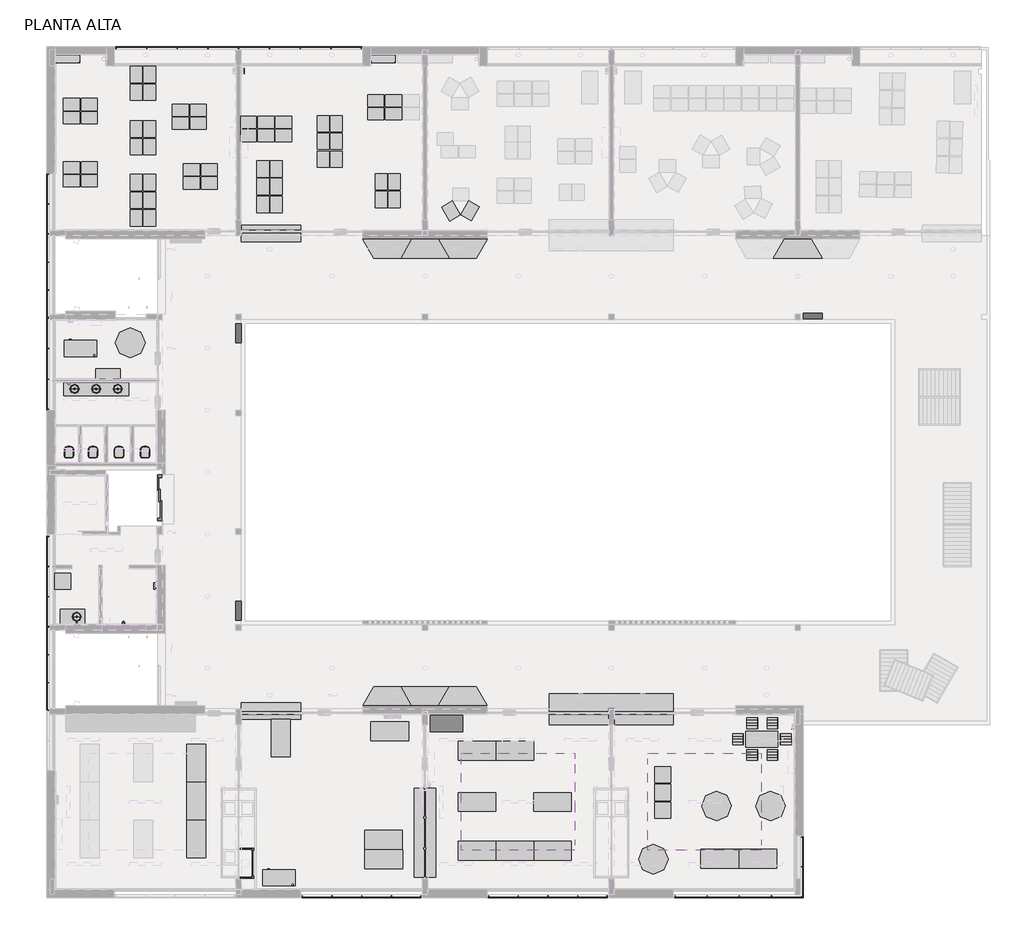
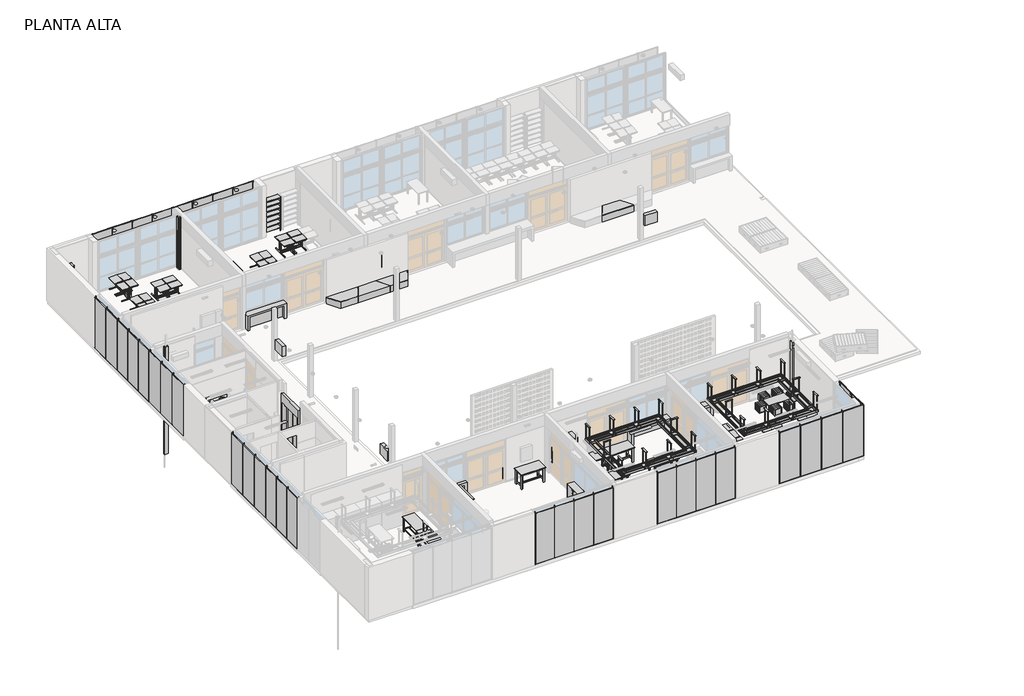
# One storey, part 10 of 14: 135 furniture elements, 11 flow terminals.
"""IFC4 building model written with IfcOpenShell, lengths in millimetres."""

from ifc_helpers import new_model, si_unit, origin, place, context, project, spatial, transform, mapped, element, save
from components import flow_terminal_9181aeda, flow_terminal_6fa54989, flow_terminal_a7845b32, furniture_e56d43f1, furniture_ab439d99, furniture_b328b4e4, furniture_2009737b, furniture_8aaaafb9, furniture_e09c71f7, furniture_937832ed, furniture_bfd22e1b, furniture_bc23b5bf, furniture_f0ac5a82, furniture_249bf919, furniture_e9eda647, furniture_beb05811, furniture_b563ccbc, furniture_e801d33e, furniture_be81a5af, furniture_d5f9400a, furniture_ed805c17, furniture_2b1f3197, furniture_4f233490, furniture_93ab70db, furniture_eb17cc9a, furniture_b6be04e7, furniture_3c228907, furniture_466d98a2, furniture_776c19b2, furniture_6e125edc, furniture_b436540a, furniture_6d9eaf94, furniture_388dc08d, furniture_bd1b491a, furniture_f4723014, furniture_2_12_escritorio_2_12_escritorio_cd86329a, furniture_2_16_mesa_redonda_2_16_mesa_redonda_79845c6b, furniture_2_7_mesa_baja_2_7_mesa_baja_48d4bc2e, generico_20x20_1fd937c5, puerta_ascensor_pet_puerta_ascensor_pet_5d3d87b6

model = new_model("IFC4")

# Units and contexts
model_context = context("Model", 3, world=origin())
ifc_project = project(units=[si_unit("LENGTHUNIT", "METRE", prefix="MILLI")], contexts=[model_context])

# Site, building, storey
site = spatial("IfcSite", under=ifc_project)
building = spatial("IfcBuilding", under=site)
storey = spatial("IfcBuildingStorey", under=building, Name="PLANTA ALTA", Elevation=3310.0)

# Flow terminals
placement = place(None, origin())
flow_terminal_shape = flow_terminal_9181aeda(model_context)
element("IfcFlowTerminal", 1, ObjectType="Inodoro-Ferrum-Tapa_y_Asiento-TKMP_TKM_TKXM_TKXMC : Tapa de Inodoro", at=placement, inside=storey, context=model_context, shape_type="MappedRepresentation", body=[
    mapped(flow_terminal_shape, transform((3906.2173694, 16255.3243696, 3645.0), x_axis=(-1.0, 0.0, 0.0), y_axis=(0.0, -1.0, 0.0), z_axis=(0.0, 0.0, 1.0))),
])
element("IfcFlowTerminal", 2, ObjectType="Inodoro-Ferrum-Tapa_y_Asiento-TKMP_TKM_TKXM_TKXMC : Tapa de Inodoro", at=placement, inside=storey, context=model_context, shape_type="MappedRepresentation", body=[
    mapped(flow_terminal_shape, transform((4796.2173694, 16255.3243696, 3645.0), x_axis=(-1.0, 0.0, 0.0), y_axis=(0.0, -1.0, 0.0), z_axis=(0.0, 0.0, 1.0))),
])
element("IfcFlowTerminal", 3, ObjectType="Inodoro-Ferrum-Tapa_y_Asiento-TKMP_TKM_TKXM_TKXMC : Tapa de Inodoro", at=placement, inside=storey, context=model_context, shape_type="MappedRepresentation", body=[
    mapped(flow_terminal_shape, transform((5761.2173694, 16255.3243696, 3645.0), x_axis=(-1.0, 0.0, 0.0), y_axis=(0.0, -1.0, 0.0), z_axis=(0.0, 0.0, 1.0))),
])
element("IfcFlowTerminal", 4, ObjectType="Inodoro-Ferrum-Tapa_y_Asiento-TKMP_TKM_TKXM_TKXMC : Tapa de Inodoro", at=placement, inside=storey, context=model_context, shape_type="MappedRepresentation", body=[
    mapped(flow_terminal_shape, transform((6726.2173694, 16255.3243696, 3645.0), x_axis=(-1.0, 0.0, 0.0), y_axis=(0.0, -1.0, 0.0), z_axis=(0.0, 0.0, 1.0))),
])
flow_terminal_2_shape = flow_terminal_6fa54989(model_context)
element("IfcFlowTerminal", 5, ObjectType="APSA-I-AI-Bacha Circular Sobreponer-PET : APSA-I-AI-Bacha Circular Sobreponer-30cm-PET", at=placement, inside=storey, context=model_context, shape_type="MappedRepresentation", body=[
    mapped(flow_terminal_2_shape, transform((4113.7173694, 19056.4804035, 4160.0), x_axis=(1.0, 0.0, 0.0), y_axis=(0.0, 1.0, 0.0), z_axis=(0.0, 0.0, 1.0))),
])
element("IfcFlowTerminal", 6, ObjectType="APSA-I-AI-Bacha Circular Sobreponer-PET : APSA-I-AI-Bacha Circular Sobreponer-30cm-PET", at=placement, inside=storey, context=model_context, shape_type="MappedRepresentation", body=[
    mapped(flow_terminal_2_shape, transform((4913.7173694, 19056.4804035, 4160.0), x_axis=(1.0, 0.0, 0.0), y_axis=(0.0, 1.0, 0.0), z_axis=(0.0, 0.0, 1.0))),
])
element("IfcFlowTerminal", 7, ObjectType="APSA-I-AI-Bacha Circular Sobreponer-PET : APSA-I-AI-Bacha Circular Sobreponer-30cm-PET", at=placement, inside=storey, context=model_context, shape_type="MappedRepresentation", body=[
    mapped(flow_terminal_2_shape, transform((5713.7173694, 19056.4804035, 4160.0), x_axis=(1.0, 0.0, 0.0), y_axis=(0.0, 1.0, 0.0), z_axis=(0.0, 0.0, 1.0))),
])
element("IfcFlowTerminal", 8, ObjectType="APSA-I-AI-Bacha Circular Sobreponer-PET : APSA-I-AI-Bacha Circular Sobreponer-30cm-PET", at=placement, inside=storey, context=model_context, shape_type="MappedRepresentation", body=[
    mapped(flow_terminal_2_shape, transform((4192.1232507, 10620.2304035, 4210.0), x_axis=(1.0, 0.0, 0.0), y_axis=(0.0, 1.0, 0.0), z_axis=(0.0, 0.0, 1.0))),
])
flow_terminal_3_shape = flow_terminal_a7845b32(model_context)
element("IfcFlowTerminal", 9, ObjectType="APSA-I-HI-Boca de incendio-PET : APSA_I_HI_Boca de incendio-PET", at=placement, inside=storey, context=model_context, shape_type="MappedRepresentation", body=[
    mapped(flow_terminal_3_shape, transform((10189.8645248, 10841.2910503, 4110.0), x_axis=(1.0, 0.0, 0.0), y_axis=(0.0, 1.0, 0.0), z_axis=(0.0, 0.0, 1.0))),
])
element("IfcFlowTerminal", 10, ObjectType="APSA-I-HI-Boca de incendio-PET : APSA_I_HI_Boca de incendio-PET", at=placement, inside=storey, context=model_context, shape_type="MappedRepresentation", body=[
    mapped(flow_terminal_3_shape, transform((10187.5297896, 21122.1749676, 4110.0), x_axis=(1.0, 0.0, 0.0), y_axis=(0.0, 1.0, 0.0), z_axis=(0.0, 0.0, 1.0))),
])
element("IfcFlowTerminal", 11, ObjectType="APSA-I-HI-Boca de incendio-PET : APSA_I_HI_Boca de incendio-PET", at=placement, inside=storey, context=model_context, shape_type="MappedRepresentation", body=[
    mapped(flow_terminal_3_shape, transform((31447.782547, 21751.1143897, 4054.7555496), x_axis=(0.0, 1.0, 0.0), y_axis=(-1.0, 0.0, 0.0), z_axis=(0.0, 0.0, 1.0))),
])

# Furniture
furniture_shape = furniture_e56d43f1(model_context)
element("IfcFurniture", 12, ObjectType="2.5 Mesa cuadrada 60x60 : 2.5 Mesa cuadrada 60x60", at=placement, inside=storey, context=model_context, shape_type="MappedRepresentation", body=[
    mapped(furniture_shape, transform((25887.82471, 4111.0132244, 3310.0), x_axis=(1.0, 0.0, 0.0), y_axis=(0.0, 1.0, 0.0), z_axis=(0.0, 0.0, 1.0))),
])
element("IfcFurniture", 13, ObjectType="2.5 Mesa cuadrada 60x60 : 2.5 Mesa cuadrada 60x60", at=placement, inside=storey, context=model_context, shape_type="MappedRepresentation", body=[
    mapped(furniture_shape, transform((25887.82471, 3455.1530743, 3310.0), x_axis=(1.0, 0.0, 0.0), y_axis=(0.0, 1.0, 0.0), z_axis=(0.0, 0.0, 1.0))),
])
element("IfcFurniture", 14, ObjectType="2.5 Mesa cuadrada 60x60 : 2.5 Mesa cuadrada 60x60", at=placement, inside=storey, context=model_context, shape_type="MappedRepresentation", body=[
    mapped(furniture_shape, transform((3678.7173694, 11936.8970702, 3310.0), x_axis=(1.0, 0.0, 0.0), y_axis=(0.0, 1.0, 0.0), z_axis=(0.0, 0.0, 1.0))),
])
element("IfcFurniture", 15, ObjectType="2.5 Mesa cuadrada 60x60 : 2.5 Mesa cuadrada 60x60", at=placement, inside=storey, context=model_context, shape_type="MappedRepresentation", body=[
    mapped(furniture_shape, transform((25887.82471, 4766.8733744, 3310.0), x_axis=(1.0, 0.0, 0.0), y_axis=(0.0, 1.0, 0.0), z_axis=(0.0, 0.0, 1.0))),
])
furniture_2_shape = furniture_ab439d99(model_context)
element("IfcFurniture", 16, ObjectType="4.5 Estantería baja : 4.5 Estantería baja", at=placement, inside=storey, context=model_context, shape_type="MappedRepresentation", body=[
    mapped(furniture_2_shape, transform((5348.7173694, 19605.2304035, 3310.0), x_axis=(-1.0, 0.0, 0.0), y_axis=(0.0, -1.0, 0.0), z_axis=(0.0, 0.0, 1.0))),
])
furniture_3_shape = furniture_b328b4e4(model_context)
element("IfcFurniture", 17, ObjectType="2.1 Mesa alumno : 2.1 Mesa alumno", at=placement, inside=storey, context=model_context, shape_type="MappedRepresentation", body=[
    mapped(furniture_3_shape, transform((8041.3582, 29377.0164676, 3310.0), x_axis=(1.0, 0.0, 0.0), y_axis=(0.0, 1.0, 0.0), z_axis=(0.0, 0.0, 1.0))),
])
element("IfcFurniture", 18, ObjectType="2.1 Mesa alumno : 2.1 Mesa alumno", at=placement, inside=storey, context=model_context, shape_type="MappedRepresentation", body=[
    mapped(furniture_3_shape, transform((8695.3024556, 29377.0164676, 3310.0), x_axis=(1.0, 0.0, 0.0), y_axis=(0.0, 1.0, 0.0), z_axis=(0.0, 0.0, 1.0))),
])
element("IfcFurniture", 19, ObjectType="2.1 Mesa alumno : 2.1 Mesa alumno", at=placement, inside=storey, context=model_context, shape_type="MappedRepresentation", body=[
    mapped(furniture_3_shape, transform((8695.301502, 28892.202398, 3310.0), x_axis=(-0.9999999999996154, 8.770485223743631e-07, 0.0), y_axis=(-8.770485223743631e-07, -0.9999999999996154, 0.0), z_axis=(0.0, 0.0, 1.0))),
])
element("IfcFurniture", 20, ObjectType="2.1 Mesa alumno : 2.1 Mesa alumno", at=placement, inside=storey, context=model_context, shape_type="MappedRepresentation", body=[
    mapped(furniture_3_shape, transform((8041.3572463, 28892.202398, 3310.0), x_axis=(-1.0, 0.0, 0.0), y_axis=(0.0, -1.0, 0.0), z_axis=(0.0, 0.0, 1.0))),
])
element("IfcFurniture", 21, ObjectType="2.1 Mesa alumno : 2.1 Mesa alumno", at=placement, inside=storey, context=model_context, shape_type="MappedRepresentation", body=[
    mapped(furniture_3_shape, transform((8444.5405945, 27163.0969981, 3310.0), x_axis=(1.0, 0.0, 0.0), y_axis=(0.0, 1.0, 0.0), z_axis=(0.0, 0.0, 1.0))),
])
element("IfcFurniture", 22, ObjectType="2.1 Mesa alumno : 2.1 Mesa alumno", at=placement, inside=storey, context=model_context, shape_type="MappedRepresentation", body=[
    mapped(furniture_3_shape, transform((9098.4848501, 27163.0969981, 3310.0), x_axis=(1.0, 0.0, 0.0), y_axis=(0.0, 1.0, 0.0), z_axis=(0.0, 0.0, 1.0))),
])
element("IfcFurniture", 23, ObjectType="2.1 Mesa alumno : 2.1 Mesa alumno", at=placement, inside=storey, context=model_context, shape_type="MappedRepresentation", body=[
    mapped(furniture_3_shape, transform((9098.4838965, 26678.2829284, 3310.0), x_axis=(-0.9999999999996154, 8.770485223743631e-07, 0.0), y_axis=(-8.770485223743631e-07, -0.9999999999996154, 0.0), z_axis=(0.0, 0.0, 1.0))),
])
element("IfcFurniture", 24, ObjectType="2.1 Mesa alumno : 2.1 Mesa alumno", at=placement, inside=storey, context=model_context, shape_type="MappedRepresentation", body=[
    mapped(furniture_3_shape, transform((8444.5396408, 26678.2829284, 3310.0), x_axis=(-1.0, 0.0, 0.0), y_axis=(0.0, -1.0, 0.0), z_axis=(0.0, 0.0, 1.0))),
])
element("IfcFurniture", 25, ObjectType="2.1 Mesa alumno : 2.1 Mesa alumno", at=placement, inside=storey, context=model_context, shape_type="MappedRepresentation", body=[
    mapped(furniture_3_shape, transform((4004.5405945, 29583.0969981, 3310.0), x_axis=(1.0, 0.0, 0.0), y_axis=(0.0, 1.0, 0.0), z_axis=(0.0, 0.0, 1.0))),
])
element("IfcFurniture", 26, ObjectType="2.1 Mesa alumno : 2.1 Mesa alumno", at=placement, inside=storey, context=model_context, shape_type="MappedRepresentation", body=[
    mapped(furniture_3_shape, transform((4658.4848501, 29583.0969981, 3310.0), x_axis=(1.0, 0.0, 0.0), y_axis=(0.0, 1.0, 0.0), z_axis=(0.0, 0.0, 1.0))),
])
element("IfcFurniture", 27, ObjectType="2.1 Mesa alumno : 2.1 Mesa alumno", at=placement, inside=storey, context=model_context, shape_type="MappedRepresentation", body=[
    mapped(furniture_3_shape, transform((4658.4838965, 29098.2829284, 3310.0), x_axis=(-0.9999999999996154, 8.770485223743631e-07, 0.0), y_axis=(-8.770485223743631e-07, -0.9999999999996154, 0.0), z_axis=(0.0, 0.0, 1.0))),
])
element("IfcFurniture", 28, ObjectType="2.1 Mesa alumno : 2.1 Mesa alumno", at=placement, inside=storey, context=model_context, shape_type="MappedRepresentation", body=[
    mapped(furniture_3_shape, transform((4004.5396408, 29098.2829284, 3310.0), x_axis=(-1.0, 0.0, 0.0), y_axis=(0.0, -1.0, 0.0), z_axis=(0.0, 0.0, 1.0))),
])
element("IfcFurniture", 29, ObjectType="2.1 Mesa alumno : 2.1 Mesa alumno", at=placement, inside=storey, context=model_context, shape_type="MappedRepresentation", body=[
    mapped(furniture_3_shape, transform((4004.5405945, 27243.0969981, 3310.0), x_axis=(1.0, 0.0, 0.0), y_axis=(0.0, 1.0, 0.0), z_axis=(0.0, 0.0, 1.0))),
])
element("IfcFurniture", 30, ObjectType="2.1 Mesa alumno : 2.1 Mesa alumno", at=placement, inside=storey, context=model_context, shape_type="MappedRepresentation", body=[
    mapped(furniture_3_shape, transform((4658.4848501, 27243.0969981, 3310.0), x_axis=(1.0, 0.0, 0.0), y_axis=(0.0, 1.0, 0.0), z_axis=(0.0, 0.0, 1.0))),
])
element("IfcFurniture", 31, ObjectType="2.1 Mesa alumno : 2.1 Mesa alumno", at=placement, inside=storey, context=model_context, shape_type="MappedRepresentation", body=[
    mapped(furniture_3_shape, transform((4658.4838965, 26758.2829284, 3310.0), x_axis=(-0.9999999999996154, 8.770485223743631e-07, 0.0), y_axis=(-8.770485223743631e-07, -0.9999999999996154, 0.0), z_axis=(0.0, 0.0, 1.0))),
])
element("IfcFurniture", 32, ObjectType="2.1 Mesa alumno : 2.1 Mesa alumno", at=placement, inside=storey, context=model_context, shape_type="MappedRepresentation", body=[
    mapped(furniture_3_shape, transform((4004.5396408, 26758.2829284, 3310.0), x_axis=(-1.0, 0.0, 0.0), y_axis=(0.0, -1.0, 0.0), z_axis=(0.0, 0.0, 1.0))),
])
element("IfcFurniture", 33, ObjectType="2.1 Mesa alumno : 2.1 Mesa alumno", at=placement, inside=storey, context=model_context, shape_type="MappedRepresentation", body=[
    mapped(furniture_3_shape, transform((6405.5382097, 30041.849804, 3310.0), x_axis=(0.0, 1.0, 0.0), y_axis=(-1.0, 0.0, 0.0), z_axis=(0.0, 0.0, 1.0))),
])
element("IfcFurniture", 34, ObjectType="2.1 Mesa alumno : 2.1 Mesa alumno", at=placement, inside=storey, context=model_context, shape_type="MappedRepresentation", body=[
    mapped(furniture_3_shape, transform((6405.5382097, 30695.7940596, 3310.0), x_axis=(0.0, 1.0, 0.0), y_axis=(-1.0, 0.0, 0.0), z_axis=(0.0, 0.0, 1.0))),
])
element("IfcFurniture", 35, ObjectType="2.1 Mesa alumno : 2.1 Mesa alumno", at=placement, inside=storey, context=model_context, shape_type="MappedRepresentation", body=[
    mapped(furniture_3_shape, transform((6890.3522794, 30695.793106, 3310.0), x_axis=(-8.770485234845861e-07, -0.9999999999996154, 0.0), y_axis=(0.9999999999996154, -8.770485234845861e-07, 0.0), z_axis=(0.0, 0.0, 1.0))),
])
element("IfcFurniture", 36, ObjectType="2.1 Mesa alumno : 2.1 Mesa alumno", at=placement, inside=storey, context=model_context, shape_type="MappedRepresentation", body=[
    mapped(furniture_3_shape, transform((6890.3522794, 30041.8488503, 3310.0), x_axis=(0.0, -1.0, 0.0), y_axis=(1.0, 0.0, 0.0), z_axis=(0.0, 0.0, 1.0))),
])
element("IfcFurniture", 37, ObjectType="2.1 Mesa alumno : 2.1 Mesa alumno", at=placement, inside=storey, context=model_context, shape_type="MappedRepresentation", body=[
    mapped(furniture_3_shape, transform((6405.5382097, 28021.849804, 3310.0), x_axis=(0.0, 1.0, 0.0), y_axis=(-1.0, 0.0, 0.0), z_axis=(0.0, 0.0, 1.0))),
])
element("IfcFurniture", 38, ObjectType="2.1 Mesa alumno : 2.1 Mesa alumno", at=placement, inside=storey, context=model_context, shape_type="MappedRepresentation", body=[
    mapped(furniture_3_shape, transform((6405.5382097, 28675.7940596, 3310.0), x_axis=(0.0, 1.0, 0.0), y_axis=(-1.0, 0.0, 0.0), z_axis=(0.0, 0.0, 1.0))),
])
element("IfcFurniture", 39, ObjectType="2.1 Mesa alumno : 2.1 Mesa alumno", at=placement, inside=storey, context=model_context, shape_type="MappedRepresentation", body=[
    mapped(furniture_3_shape, transform((6890.3522794, 28675.793106, 3310.0), x_axis=(-8.770485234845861e-07, -0.9999999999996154, 0.0), y_axis=(0.9999999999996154, -8.770485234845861e-07, 0.0), z_axis=(0.0, 0.0, 1.0))),
])
element("IfcFurniture", 40, ObjectType="2.1 Mesa alumno : 2.1 Mesa alumno", at=placement, inside=storey, context=model_context, shape_type="MappedRepresentation", body=[
    mapped(furniture_3_shape, transform((6890.3522794, 28021.8488503, 3310.0), x_axis=(0.0, -1.0, 0.0), y_axis=(1.0, 0.0, 0.0), z_axis=(0.0, 0.0, 1.0))),
])
element("IfcFurniture", 41, ObjectType="2.1 Mesa alumno : 2.1 Mesa alumno", at=placement, inside=storey, context=model_context, shape_type="MappedRepresentation", body=[
    mapped(furniture_3_shape, transform((6405.5382097, 26041.849804, 3310.0), x_axis=(0.0, 1.0, 0.0), y_axis=(-1.0, 0.0, 0.0), z_axis=(0.0, 0.0, 1.0))),
])
element("IfcFurniture", 42, ObjectType="2.1 Mesa alumno : 2.1 Mesa alumno", at=placement, inside=storey, context=model_context, shape_type="MappedRepresentation", body=[
    mapped(furniture_3_shape, transform((6405.5382097, 26695.7940596, 3310.0), x_axis=(0.0, 1.0, 0.0), y_axis=(-1.0, 0.0, 0.0), z_axis=(0.0, 0.0, 1.0))),
])
element("IfcFurniture", 43, ObjectType="2.1 Mesa alumno : 2.1 Mesa alumno", at=placement, inside=storey, context=model_context, shape_type="MappedRepresentation", body=[
    mapped(furniture_3_shape, transform((6890.3522794, 26695.793106, 3310.0), x_axis=(-8.770485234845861e-07, -0.9999999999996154, 0.0), y_axis=(0.9999999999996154, -8.770485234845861e-07, 0.0), z_axis=(0.0, 0.0, 1.0))),
])
element("IfcFurniture", 44, ObjectType="2.1 Mesa alumno : 2.1 Mesa alumno", at=placement, inside=storey, context=model_context, shape_type="MappedRepresentation", body=[
    mapped(furniture_3_shape, transform((6890.3522794, 26041.8488503, 3310.0), x_axis=(0.0, -1.0, 0.0), y_axis=(1.0, 0.0, 0.0), z_axis=(0.0, 0.0, 1.0))),
])
element("IfcFurniture", 45, ObjectType="2.1 Mesa alumno : 2.1 Mesa alumno", at=placement, inside=storey, context=model_context, shape_type="MappedRepresentation", body=[
    mapped(furniture_3_shape, transform((6405.5382097, 25381.849804, 3310.0), x_axis=(0.0, 1.0, 0.0), y_axis=(-1.0, 0.0, 0.0), z_axis=(0.0, 0.0, 1.0))),
])
element("IfcFurniture", 46, ObjectType="2.1 Mesa alumno : 2.1 Mesa alumno", at=placement, inside=storey, context=model_context, shape_type="MappedRepresentation", body=[
    mapped(furniture_3_shape, transform((6890.3522794, 25381.8488503, 3310.0), x_axis=(0.0, -1.0, 0.0), y_axis=(1.0, 0.0, 0.0), z_axis=(0.0, 0.0, 1.0))),
])
element("IfcFurniture", 47, ObjectType="2.1 Mesa alumno : 2.1 Mesa alumno", at=placement, inside=storey, context=model_context, shape_type="MappedRepresentation", body=[
    mapped(furniture_3_shape, transform((15924.5405945, 29723.0969981, 3310.0), x_axis=(1.0, 0.0, 0.0), y_axis=(0.0, 1.0, 0.0), z_axis=(0.0, 0.0, 1.0))),
])
element("IfcFurniture", 48, ObjectType="2.1 Mesa alumno : 2.1 Mesa alumno", at=placement, inside=storey, context=model_context, shape_type="MappedRepresentation", body=[
    mapped(furniture_3_shape, transform((15924.5396408, 29238.2829284, 3310.0), x_axis=(-1.0, 0.0, 0.0), y_axis=(0.0, -1.0, 0.0), z_axis=(0.0, 0.0, 1.0))),
])
element("IfcFurniture", 49, ObjectType="2.1 Mesa alumno : 2.1 Mesa alumno", at=placement, inside=storey, context=model_context, shape_type="MappedRepresentation", body=[
    mapped(furniture_3_shape, transform((15270.5963389, 29723.0969981, 3310.0), x_axis=(1.0, 0.0, 0.0), y_axis=(0.0, 1.0, 0.0), z_axis=(0.0, 0.0, 1.0))),
])
element("IfcFurniture", 50, ObjectType="2.1 Mesa alumno : 2.1 Mesa alumno", at=placement, inside=storey, context=model_context, shape_type="MappedRepresentation", body=[
    mapped(furniture_3_shape, transform((15270.5953852, 29238.2829284, 3310.0), x_axis=(-1.0, 0.0, 0.0), y_axis=(0.0, -1.0, 0.0), z_axis=(0.0, 0.0, 1.0))),
])
element("IfcFurniture", 51, ObjectType="2.1 Mesa alumno : 2.1 Mesa alumno", at=placement, inside=storey, context=model_context, shape_type="MappedRepresentation", body=[
    mapped(furniture_3_shape, transform((15471.2904926, 26066.2514887, 3310.0), x_axis=(0.0, 1.0, 0.0), y_axis=(-1.0, 0.0, 0.0), z_axis=(0.0, 0.0, 1.0))),
])
element("IfcFurniture", 52, ObjectType="2.1 Mesa alumno : 2.1 Mesa alumno", at=placement, inside=storey, context=model_context, shape_type="MappedRepresentation", body=[
    mapped(furniture_3_shape, transform((15471.2904926, 26720.1957444, 3310.0), x_axis=(0.0, 1.0, 0.0), y_axis=(-1.0, 0.0, 0.0), z_axis=(0.0, 0.0, 1.0))),
])
element("IfcFurniture", 53, ObjectType="2.1 Mesa alumno : 2.1 Mesa alumno", at=placement, inside=storey, context=model_context, shape_type="MappedRepresentation", body=[
    mapped(furniture_3_shape, transform((15956.1045622, 26720.1947907, 3310.0), x_axis=(-8.770485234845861e-07, -0.9999999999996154, 0.0), y_axis=(0.9999999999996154, -8.770485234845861e-07, 0.0), z_axis=(0.0, 0.0, 1.0))),
])
element("IfcFurniture", 54, ObjectType="2.1 Mesa alumno : 2.1 Mesa alumno", at=placement, inside=storey, context=model_context, shape_type="MappedRepresentation", body=[
    mapped(furniture_3_shape, transform((15956.1045622, 26066.2505351, 3310.0), x_axis=(0.0, -1.0, 0.0), y_axis=(1.0, 0.0, 0.0), z_axis=(0.0, 0.0, 1.0))),
])
element("IfcFurniture", 55, ObjectType="2.1 Mesa alumno : 2.1 Mesa alumno", at=placement, inside=storey, context=model_context, shape_type="MappedRepresentation", body=[
    mapped(furniture_3_shape, transform((11091.2904926, 26546.2514887, 3310.0), x_axis=(0.0, 1.0, 0.0), y_axis=(-1.0, 0.0, 0.0), z_axis=(0.0, 0.0, 1.0))),
])
element("IfcFurniture", 56, ObjectType="2.1 Mesa alumno : 2.1 Mesa alumno", at=placement, inside=storey, context=model_context, shape_type="MappedRepresentation", body=[
    mapped(furniture_3_shape, transform((11091.2904926, 27200.1957444, 3310.0), x_axis=(0.0, 1.0, 0.0), y_axis=(-1.0, 0.0, 0.0), z_axis=(0.0, 0.0, 1.0))),
])
element("IfcFurniture", 57, ObjectType="2.1 Mesa alumno : 2.1 Mesa alumno", at=placement, inside=storey, context=model_context, shape_type="MappedRepresentation", body=[
    mapped(furniture_3_shape, transform((11576.1045622, 27200.1947907, 3310.0), x_axis=(-8.770485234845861e-07, -0.9999999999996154, 0.0), y_axis=(0.9999999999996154, -8.770485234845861e-07, 0.0), z_axis=(0.0, 0.0, 1.0))),
])
element("IfcFurniture", 58, ObjectType="2.1 Mesa alumno : 2.1 Mesa alumno", at=placement, inside=storey, context=model_context, shape_type="MappedRepresentation", body=[
    mapped(furniture_3_shape, transform((11576.1045622, 26546.2505351, 3310.0), x_axis=(0.0, -1.0, 0.0), y_axis=(1.0, 0.0, 0.0), z_axis=(0.0, 0.0, 1.0))),
])
element("IfcFurniture", 59, ObjectType="2.1 Mesa alumno : 2.1 Mesa alumno", at=placement, inside=storey, context=model_context, shape_type="MappedRepresentation", body=[
    mapped(furniture_3_shape, transform((11091.2904926, 25886.2514887, 3310.0), x_axis=(0.0, 1.0, 0.0), y_axis=(-1.0, 0.0, 0.0), z_axis=(0.0, 0.0, 1.0))),
])
element("IfcFurniture", 60, ObjectType="2.1 Mesa alumno : 2.1 Mesa alumno", at=placement, inside=storey, context=model_context, shape_type="MappedRepresentation", body=[
    mapped(furniture_3_shape, transform((11576.1045622, 25886.2505351, 3310.0), x_axis=(0.0, -1.0, 0.0), y_axis=(1.0, 0.0, 0.0), z_axis=(0.0, 0.0, 1.0))),
])
element("IfcFurniture", 61, ObjectType="2.1 Mesa alumno : 2.1 Mesa alumno", at=placement, inside=storey, context=model_context, shape_type="MappedRepresentation", body=[
    mapped(furniture_3_shape, transform((13317.280069, 28221.7486719, 3310.0), x_axis=(0.0, 1.0, 0.0), y_axis=(-1.0, 0.0, 0.0), z_axis=(0.0, 0.0, 1.0))),
])
element("IfcFurniture", 62, ObjectType="2.1 Mesa alumno : 2.1 Mesa alumno", at=placement, inside=storey, context=model_context, shape_type="MappedRepresentation", body=[
    mapped(furniture_3_shape, transform((13317.280069, 28875.6929275, 3310.0), x_axis=(0.0, 1.0, 0.0), y_axis=(-1.0, 0.0, 0.0), z_axis=(0.0, 0.0, 1.0))),
])
element("IfcFurniture", 63, ObjectType="2.1 Mesa alumno : 2.1 Mesa alumno", at=placement, inside=storey, context=model_context, shape_type="MappedRepresentation", body=[
    mapped(furniture_3_shape, transform((13802.0941386, 28875.6919739, 3310.0), x_axis=(-8.770485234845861e-07, -0.9999999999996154, 0.0), y_axis=(0.9999999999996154, -8.770485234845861e-07, 0.0), z_axis=(0.0, 0.0, 1.0))),
])
element("IfcFurniture", 64, ObjectType="2.1 Mesa alumno : 2.1 Mesa alumno", at=placement, inside=storey, context=model_context, shape_type="MappedRepresentation", body=[
    mapped(furniture_3_shape, transform((13802.0941386, 28221.7477182, 3310.0), x_axis=(0.0, -1.0, 0.0), y_axis=(1.0, 0.0, 0.0), z_axis=(0.0, 0.0, 1.0))),
])
element("IfcFurniture", 65, ObjectType="2.1 Mesa alumno : 2.1 Mesa alumno", at=placement, inside=storey, context=model_context, shape_type="MappedRepresentation", body=[
    mapped(furniture_3_shape, transform((13317.280069, 27561.7486719, 3310.0), x_axis=(0.0, 1.0, 0.0), y_axis=(-1.0, 0.0, 0.0), z_axis=(0.0, 0.0, 1.0))),
])
element("IfcFurniture", 66, ObjectType="2.1 Mesa alumno : 2.1 Mesa alumno", at=placement, inside=storey, context=model_context, shape_type="MappedRepresentation", body=[
    mapped(furniture_3_shape, transform((13802.0941386, 27561.7477182, 3310.0), x_axis=(0.0, -1.0, 0.0), y_axis=(1.0, 0.0, 0.0), z_axis=(0.0, 0.0, 1.0))),
])
element("IfcFurniture", 67, ObjectType="2.1 Mesa alumno : 2.1 Mesa alumno", at=placement, inside=storey, context=model_context, shape_type="MappedRepresentation", body=[
    mapped(furniture_3_shape, transform((18756.0271973, 25645.6309393, 3310.0), x_axis=(-0.5000000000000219, -0.8660254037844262, 0.0), y_axis=(0.8660254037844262, -0.5000000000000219, 0.0), z_axis=(0.0, 0.0, 1.0))),
])
element("IfcFurniture", 68, ObjectType="2.1 Mesa alumno : 2.1 Mesa alumno", at=placement, inside=storey, context=model_context, shape_type="MappedRepresentation", body=[
    mapped(furniture_3_shape, transform((18055.4554608, 25642.821668, 3310.0), x_axis=(-0.49999924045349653, 0.8660258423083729, 0.0), y_axis=(-0.8660258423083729, -0.49999924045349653, 0.0), z_axis=(0.0, 0.0, 1.0))),
])
furniture_4_shape = furniture_2009737b(model_context)
element("IfcFurniture", 69, ObjectType="1.7 Taburete bajo : 1.7 Taburete bajo", at=placement, inside=storey, context=model_context, shape_type="MappedRepresentation", body=[
    mapped(furniture_4_shape, transform((29953.7817502, 5501.9534316, 3310.0), x_axis=(-1.0, 0.0, 0.0), y_axis=(0.0, -1.0, 0.0), z_axis=(0.0, 0.0, 1.0))),
])
element("IfcFurniture", 70, ObjectType="1.7 Taburete bajo : 1.7 Taburete bajo", at=placement, inside=storey, context=model_context, shape_type="MappedRepresentation", body=[
    mapped(furniture_4_shape, transform((29207.2773575, 5501.9534316, 3310.0), x_axis=(-1.0, 0.0, 0.0), y_axis=(0.0, -1.0, 0.0), z_axis=(0.0, 0.0, 1.0))),
])
element("IfcFurniture", 71, ObjectType="1.7 Taburete bajo : 1.7 Taburete bajo", at=placement, inside=storey, context=model_context, shape_type="MappedRepresentation", body=[
    mapped(furniture_4_shape, transform((29953.7817502, 6683.5364272, 3310.0), x_axis=(-1.0, 0.0, 0.0), y_axis=(0.0, -1.0, 0.0), z_axis=(0.0, 0.0, 1.0))),
])
element("IfcFurniture", 72, ObjectType="1.7 Taburete bajo : 1.7 Taburete bajo", at=placement, inside=storey, context=model_context, shape_type="MappedRepresentation", body=[
    mapped(furniture_4_shape, transform((29207.2773575, 6683.5364272, 3310.0), x_axis=(-1.0, 0.0, 0.0), y_axis=(0.0, -1.0, 0.0), z_axis=(0.0, 0.0, 1.0))),
])
element("IfcFurniture", 73, ObjectType="1.7 Taburete bajo : 1.7 Taburete bajo", at=placement, inside=storey, context=model_context, shape_type="MappedRepresentation", body=[
    mapped(furniture_4_shape, transform((28673.7817025, 6083.5364033, 3310.0), x_axis=(-1.0, 0.0, 0.0), y_axis=(0.0, -1.0, 0.0), z_axis=(0.0, 0.0, 1.0))),
])
furniture_5_shape = furniture_8aaaafb9(model_context)
element("IfcFurniture", 74, ObjectType="2.2 Mesa de madera de física : 2.2 Mesa de madera de física", at=placement, inside=storey, context=model_context, shape_type="MappedRepresentation", body=[
    mapped(furniture_5_shape, transform((19014.0367562, 5692.4761227, 3310.0), x_axis=(1.0, 0.0, 0.0), y_axis=(0.0, 1.0, 0.0), z_axis=(0.0, 0.0, 1.0))),
])
element("IfcFurniture", 75, ObjectType="2.2 Mesa de madera de física : 2.2 Mesa de madera de física", at=placement, inside=storey, context=model_context, shape_type="MappedRepresentation", body=[
    mapped(furniture_5_shape, transform((20414.0306527, 5692.4761227, 3310.0), x_axis=(1.0, 0.0, 0.0), y_axis=(0.0, 1.0, 0.0), z_axis=(0.0, 0.0, 1.0))),
])
element("IfcFurniture", 76, ObjectType="2.2 Mesa de madera de física : 2.2 Mesa de madera de física", at=placement, inside=storey, context=model_context, shape_type="MappedRepresentation", body=[
    mapped(furniture_5_shape, transform((19014.0367562, 3792.4761227, 3310.0), x_axis=(1.0, 0.0, 0.0), y_axis=(0.0, 1.0, 0.0), z_axis=(0.0, 0.0, 1.0))),
])
element("IfcFurniture", 77, ObjectType="2.2 Mesa de madera de física : 2.2 Mesa de madera de física", at=placement, inside=storey, context=model_context, shape_type="MappedRepresentation", body=[
    mapped(furniture_5_shape, transform((21814.0245491, 3792.4761227, 3310.0), x_axis=(1.0, 0.0, 0.0), y_axis=(0.0, 1.0, 0.0), z_axis=(0.0, 0.0, 1.0))),
])
element("IfcFurniture", 78, ObjectType="2.2 Mesa de madera de física : 2.2 Mesa de madera de física", at=placement, inside=storey, context=model_context, shape_type="MappedRepresentation", body=[
    mapped(furniture_5_shape, transform((19014.0367562, 1992.4761227, 3310.0), x_axis=(1.0, 0.0, 0.0), y_axis=(0.0, 1.0, 0.0), z_axis=(0.0, 0.0, 1.0))),
])
element("IfcFurniture", 79, ObjectType="2.2 Mesa de madera de física : 2.2 Mesa de madera de física", at=placement, inside=storey, context=model_context, shape_type="MappedRepresentation", body=[
    mapped(furniture_5_shape, transform((20414.0306527, 1992.4761227, 3310.0), x_axis=(1.0, 0.0, 0.0), y_axis=(0.0, 1.0, 0.0), z_axis=(0.0, 0.0, 1.0))),
])
element("IfcFurniture", 80, ObjectType="2.2 Mesa de madera de física : 2.2 Mesa de madera de física", at=placement, inside=storey, context=model_context, shape_type="MappedRepresentation", body=[
    mapped(furniture_5_shape, transform((21814.0245491, 1992.4761227, 3310.0), x_axis=(1.0, 0.0, 0.0), y_axis=(0.0, 1.0, 0.0), z_axis=(0.0, 0.0, 1.0))),
])
element("IfcFurniture", 81, ObjectType="2.2 Mesa de madera de física : 2.2 Mesa de madera de física", at=placement, inside=storey, context=model_context, shape_type="MappedRepresentation", body=[
    mapped(furniture_5_shape, transform((29408.8009009, 1692.4761227, 3310.0), x_axis=(1.0, 0.0, 0.0), y_axis=(0.0, 1.0, 0.0), z_axis=(0.0, 0.0, 1.0))),
])
element("IfcFurniture", 82, ObjectType="2.2 Mesa de madera de física : 2.2 Mesa de madera de física", at=placement, inside=storey, context=model_context, shape_type="MappedRepresentation", body=[
    mapped(furniture_5_shape, transform((28008.8070044, 1692.4761227, 3310.0), x_axis=(1.0, 0.0, 0.0), y_axis=(0.0, 1.0, 0.0), z_axis=(0.0, 0.0, 1.0))),
])
element("IfcFurniture", 83, ObjectType="2.2 Mesa de madera de física : 2.2 Mesa de madera de física", at=placement, inside=storey, context=model_context, shape_type="MappedRepresentation", body=[
    mapped(furniture_5_shape, transform((15558.0597081, 1617.9828929, 3310.0), x_axis=(-1.0, 0.0, 0.0), y_axis=(0.0, -1.0, 0.0), z_axis=(0.0, 0.0, 1.0))),
])
element("IfcFurniture", 84, ObjectType="2.2 Mesa de madera de física : 2.2 Mesa de madera de física", at=placement, inside=storey, context=model_context, shape_type="MappedRepresentation", body=[
    mapped(furniture_5_shape, transform((15558.0597081, 2392.4517087, 3310.0), x_axis=(1.0, 0.0, 0.0), y_axis=(0.0, 1.0, 0.0), z_axis=(0.0, 0.0, 1.0))),
])
element("IfcFurniture", 85, ObjectType="2.2 Mesa de madera de física : 2.2 Mesa de madera de física", at=placement, inside=storey, context=model_context, shape_type="MappedRepresentation", body=[
    mapped(furniture_5_shape, transform((15789.1805465, 6406.5222305, 3310.0), x_axis=(1.0, 0.0, 0.0), y_axis=(0.0, 1.0, 0.0), z_axis=(0.0, 0.0, 1.0))),
])
element("IfcFurniture", 86, ObjectType="2.2 Mesa de madera de física : 2.2 Mesa de madera de física", at=placement, inside=storey, context=model_context, shape_type="MappedRepresentation", body=[
    mapped(furniture_5_shape, transform((11784.0248743, 6127.5560344, 3310.0), x_axis=(0.0, -1.0, 0.0), y_axis=(1.0, 0.0, 0.0), z_axis=(0.0, 0.0, 1.0))),
])
furniture_6_shape = furniture_e09c71f7(model_context)
element("IfcFurniture", 87, ObjectType="2.3 Mesa de laboratorio de química y biología : 2.3 Mesa de laboratorio de química y biología", at=placement, inside=storey, context=model_context, shape_type="MappedRepresentation", body=[
    mapped(furniture_6_shape, transform((8623.532356, 3792.4761227, 3310.0), x_axis=(1.0, 0.0, 0.0), y_axis=(0.0, 1.0, 0.0), z_axis=(0.0, 0.0, 1.0))),
])
element("IfcFurniture", 88, ObjectType="2.3 Mesa de laboratorio de química y biología : 2.3 Mesa de laboratorio de química y biología", at=placement, inside=storey, context=model_context, shape_type="MappedRepresentation", body=[
    mapped(furniture_6_shape, transform((8623.532356, 2392.4517087, 3310.0), x_axis=(1.0, 0.0, 0.0), y_axis=(0.0, 1.0, 0.0), z_axis=(0.0, 0.0, 1.0))),
])
element("IfcFurniture", 89, ObjectType="2.3 Mesa de laboratorio de química y biología : 2.3 Mesa de laboratorio de química y biología", at=placement, inside=storey, context=model_context, shape_type="MappedRepresentation", body=[
    mapped(furniture_6_shape, transform((8623.532356, 5192.4761227, 3310.0), x_axis=(1.0, 0.0, 0.0), y_axis=(0.0, 1.0, 0.0), z_axis=(0.0, 0.0, 1.0))),
])
furniture_7_shape = furniture_937832ed(model_context)
element("IfcFurniture", 90, ObjectType="2.1 Mesa alumno : 2.1 Mesa alumno", at=placement, inside=storey, context=model_context, shape_type="MappedRepresentation", body=[
    mapped(furniture_7_shape, transform((11200.2268398, 28923.6414668, 3310.0), x_axis=(-1.0, 0.0, 0.0), y_axis=(0.0, -1.0, 0.0), z_axis=(0.0, 0.0, 1.0))),
])
element("IfcFurniture", 91, ObjectType="2.1 Mesa alumno : 2.1 Mesa alumno", at=placement, inside=storey, context=model_context, shape_type="MappedRepresentation", body=[
    mapped(furniture_7_shape, transform((10546.2825842, 28923.6414668, 3310.0), x_axis=(-1.0, 0.0, 0.0), y_axis=(0.0, -1.0, 0.0), z_axis=(0.0, 0.0, 1.0))),
])
element("IfcFurniture", 92, ObjectType="2.1 Mesa alumno : 2.1 Mesa alumno", at=placement, inside=storey, context=model_context, shape_type="MappedRepresentation", body=[
    mapped(furniture_7_shape, transform((10546.2835378, 28438.8273972, 3310.0), x_axis=(0.9999999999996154, 8.770485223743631e-07, 0.0), y_axis=(-8.770485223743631e-07, 0.9999999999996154, 0.0), z_axis=(0.0, 0.0, 1.0))),
])
element("IfcFurniture", 93, ObjectType="2.1 Mesa alumno : 2.1 Mesa alumno", at=placement, inside=storey, context=model_context, shape_type="MappedRepresentation", body=[
    mapped(furniture_7_shape, transform((11200.2277935, 28438.8273972, 3310.0), x_axis=(1.0, 0.0, 0.0), y_axis=(0.0, 1.0, 0.0), z_axis=(0.0, 0.0, 1.0))),
])
element("IfcFurniture", 94, ObjectType="2.1 Mesa alumno : 2.1 Mesa alumno", at=placement, inside=storey, context=model_context, shape_type="MappedRepresentation", body=[
    mapped(furniture_7_shape, transform((11854.1710955, 28923.6414668, 3310.0), x_axis=(-1.0, 0.0, 0.0), y_axis=(0.0, -1.0, 0.0), z_axis=(0.0, 0.0, 1.0))),
])
element("IfcFurniture", 95, ObjectType="2.1 Mesa alumno : 2.1 Mesa alumno", at=placement, inside=storey, context=model_context, shape_type="MappedRepresentation", body=[
    mapped(furniture_7_shape, transform((11854.1720491, 28438.8273972, 3310.0), x_axis=(1.0, 0.0, 0.0), y_axis=(0.0, 1.0, 0.0), z_axis=(0.0, 0.0, 1.0))),
])
furniture_8_shape = furniture_bfd22e1b(model_context)
element("IfcFurniture", 96, ObjectType="1.7 Taburete bajo : 1.7 Taburete bajo", at=placement, inside=storey, context=model_context, shape_type="MappedRepresentation", body=[
    mapped(furniture_8_shape, transform((30440.1839298, 6083.5364033, 3310.0), x_axis=(1.0, 0.0, 0.0), y_axis=(0.0, 1.0, 0.0), z_axis=(0.0, 0.0, 1.0))),
])
furniture_9_shape = furniture_bc23b5bf(model_context)
element("IfcFurniture", 97, ObjectType="H04 Protección 4 módulos : H4.3 Protección 4 módulos 465x315", at=placement, inside=storey, context=model_context, shape_type="MappedRepresentation", body=[
    mapped(furniture_9_shape, transform((7869.0170429, 31130.2304035, 3260.0), x_axis=(1.0, 0.0, 0.0), y_axis=(0.0, 1.0, 0.0), z_axis=(0.0, 0.0, 1.0))),
])
element("IfcFurniture", 98, ObjectType="H04 Protección 4 módulos : H4.3 Protección 4 módulos 465x315", at=placement, inside=storey, context=model_context, shape_type="MappedRepresentation", body=[
    mapped(furniture_9_shape, transform((12419.0170429, 31130.2304035, 3260.0), x_axis=(1.0, 0.0, 0.0), y_axis=(0.0, 1.0, 0.0), z_axis=(0.0, 0.0, 1.0))),
])
furniture_10_shape = furniture_f0ac5a82(model_context)
element("IfcFurniture", 99, ObjectType="H03 Protección 3 módulos : H3.1 Protección 3 módulos 350x315", at=placement, inside=storey, context=model_context, shape_type="MappedRepresentation", body=[
    mapped(furniture_10_shape, transform((3678.7173694, 19468.3682299, 3260.0), x_axis=(0.0, -1.0, 0.0), y_axis=(1.0, 0.0, 0.0), z_axis=(0.0, 0.0, 1.0))),
])
furniture_11_shape = furniture_249bf919(model_context)
element("IfcFurniture", 100, ObjectType="H03 Protección 3 módulos : H3.3 Protección 3 módulos 345x315", at=placement, inside=storey, context=model_context, shape_type="MappedRepresentation", body=[
    mapped(furniture_11_shape, transform((3678.7173694, 11414.9307299, 3260.0), x_axis=(0.0, -1.0, 0.0), y_axis=(1.0, 0.0, 0.0), z_axis=(0.0, 0.0, 1.0))),
])
furniture_12_shape = furniture_e9eda647(model_context)
element("IfcFurniture", 101, ObjectType="H03 Protección 3 módulos : H3.2 Protección 3 módulos 320x315", at=placement, inside=storey, context=model_context, shape_type="MappedRepresentation", body=[
    mapped(furniture_12_shape, transform((3678.7173694, 8231.5973966, 3260.0), x_axis=(0.0, -1.0, 0.0), y_axis=(1.0, 0.0, 0.0), z_axis=(0.0, 0.0, 1.0))),
])
furniture_13_shape = furniture_beb05811(model_context)
element("IfcFurniture", 102, ObjectType="H02 Protección 2 módulos : H02 Protección 2 módulos 230x315", at=placement, inside=storey, context=model_context, shape_type="MappedRepresentation", body=[
    mapped(furniture_13_shape, transform((3678.7173694, 25949.9307299, 3260.0), x_axis=(0.0, -1.0, 0.0), y_axis=(1.0, 0.0, 0.0), z_axis=(0.0, 0.0, 1.0))),
])
element("IfcFurniture", 103, ObjectType="H02 Protección 2 módulos : H02 Protección 2 módulos 230x315", at=placement, inside=storey, context=model_context, shape_type="MappedRepresentation", body=[
    mapped(furniture_13_shape, transform((30498.7173693, 1312.5300771, 3260.0), x_axis=(0.0, 1.0, 0.0), y_axis=(-1.0, 0.0, 0.0), z_axis=(0.0, 0.0, 1.0))),
])
furniture_14_shape = furniture_b563ccbc(model_context)
element("IfcFurniture", 104, ObjectType="H04 Protección 4 módulos : H4.1 Protección 4 módulos 450x315", at=placement, inside=storey, context=model_context, shape_type="MappedRepresentation", body=[
    mapped(furniture_14_shape, transform((14694.0170429, 810.2304035, 3260.0), x_axis=(1.0, 0.0, 0.0), y_axis=(0.0, 1.0, 0.0), z_axis=(0.0, 0.0, 1.0))),
])
element("IfcFurniture", 105, ObjectType="H04 Protección 4 módulos : H4.1 Protección 4 módulos 450x315", at=placement, inside=storey, context=model_context, shape_type="MappedRepresentation", body=[
    mapped(furniture_14_shape, transform((21594.0170429, 810.2304035, 3260.0), x_axis=(1.0, 0.0, 0.0), y_axis=(0.0, 1.0, 0.0), z_axis=(0.0, 0.0, 1.0))),
])
furniture_15_shape = furniture_e801d33e(model_context)
element("IfcFurniture", 106, ObjectType="P03 Mesada Silestone 3 bachas : P03 Mesada Silestone 3 bachas", at=placement, inside=storey, context=model_context, shape_type="MappedRepresentation", body=[
    mapped(furniture_15_shape, transform((4869.0170429, 19310.2304035, 4140.0), x_axis=(1.0, 0.0, 0.0), y_axis=(0.0, 1.0, 0.0), z_axis=(0.0, 0.0, 1.0))),
])
furniture_16_shape = furniture_be81a5af(model_context)
element("IfcFurniture", 107, ObjectType="V01 Espejo : V1.1 Espejo SSHH Estudiantes", at=placement, inside=storey, context=model_context, shape_type="MappedRepresentation", body=[
    mapped(furniture_16_shape, transform((4869.0170429, 19320.2304035, 4360.0), x_axis=(1.0, 0.0, 0.0), y_axis=(0.0, 1.0, 0.0), z_axis=(0.0, 0.0, 1.0))),
])
furniture_17_shape = furniture_d5f9400a(model_context)
element("IfcFurniture", 108, ObjectType="P01 Mesada Silestone 1 bacha : P01 Mesada Silestone 1 bacha", at=placement, inside=storey, context=model_context, shape_type="MappedRepresentation", body=[
    mapped(furniture_17_shape, transform((3334.4578813, 10335.2304035, 4210.0), x_axis=(-1.0, 0.0, 0.0), y_axis=(0.0, -1.0, 0.0), z_axis=(0.0, 0.0, 1.0))),
])
furniture_18_shape = furniture_ed805c17(model_context)
element("IfcFurniture", 109, ObjectType="C08 Mesa circulación simple : C08 Mesa circulación simple", at=placement, inside=storey, context=model_context, shape_type="MappedRepresentation", body=[
    mapped(furniture_18_shape, transform((11388.7173694, 24645.2304035, 3310.0), x_axis=(-1.0, 0.0, 0.0), y_axis=(0.0, -1.0, 0.0), z_axis=(0.0, 0.0, 1.0))),
])
furniture_19_shape = furniture_2b1f3197(model_context)
element("IfcFurniture", 110, ObjectType="C06 Asiento Trapecio : C06 Asiento Trapecio 180x40", at=placement, inside=storey, context=model_context, shape_type="MappedRepresentation", body=[
    mapped(furniture_19_shape, transform((17088.7173693, 23899.5116208, 3310.0), x_axis=(1.0, 0.0, 0.0), y_axis=(0.0, 1.0, 0.0), z_axis=(0.0, 0.0, 1.0))),
])
element("IfcFurniture", 111, ObjectType="C06 Asiento Trapecio : C06 Asiento Trapecio 180x40", at=placement, inside=storey, context=model_context, shape_type="MappedRepresentation", body=[
    mapped(furniture_19_shape, transform((15688.7173693, 7330.9491861, 3310.0), x_axis=(1.0, -6.335926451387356e-12, 0.0), y_axis=(6.335926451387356e-12, 1.0, 0.0), z_axis=(0.0, 0.0, 1.0))),
])
element("IfcFurniture", 112, ObjectType="C06 Asiento Trapecio : C06 Asiento Trapecio 180x40", at=placement, inside=storey, context=model_context, shape_type="MappedRepresentation", body=[
    mapped(furniture_19_shape, transform((18488.7173693, 7330.9491861, 3310.0), x_axis=(1.0, -6.335926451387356e-12, 0.0), y_axis=(6.335926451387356e-12, 1.0, 0.0), z_axis=(0.0, 0.0, 1.0))),
])
furniture_20_shape = furniture_4f233490(model_context)
element("IfcFurniture", 113, ObjectType="C07 Mesa circulación doble : C07 Mesa circulación doble", at=placement, inside=storey, context=model_context, shape_type="MappedRepresentation", body=[
    mapped(furniture_20_shape, transform((23988.7173693, 7195.2304033, 3300.0), x_axis=(1.0, -7.52064129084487e-12, 0.0), y_axis=(7.52064129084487e-12, 1.0, 0.0), z_axis=(0.0, 0.0, 1.0))),
])
furniture_21_shape = furniture_93ab70db(model_context)
furniture_22_shape = furniture_eb17cc9a(model_context)
element("IfcFurniture", 114, ObjectType="H07 Ducto laboratorios cuadrado : H07 Ducto laboratorios", at=placement, inside=storey, context=model_context, shape_type="MappedRepresentation", body=[
    mapped(furniture_21_shape, transform((20494.0170429, 5568.5637368, 3310.0), x_axis=(1.0, 0.0, 0.0), y_axis=(0.0, 1.0, 0.0), z_axis=(0.0, 0.0, 1.0))),
    mapped(furniture_22_shape, transform((20494.0170429, 5568.5637368, 3310.0), x_axis=(1.0, 0.0, 0.0), y_axis=(0.0, 1.0, 0.0), z_axis=(0.0, 0.0, 1.0))),
])
element("IfcFurniture", 115, ObjectType="H07 Ducto laboratorios cuadrado : H07 Ducto laboratorios", at=placement, inside=storey, context=model_context, shape_type="MappedRepresentation", body=[
    mapped(furniture_21_shape, transform((27394.0170429, 5568.5637368, 3310.0), x_axis=(1.0, 0.0, 0.0), y_axis=(0.0, 1.0, 0.0), z_axis=(0.0, 0.0, 1.0))),
    mapped(furniture_22_shape, transform((27394.0170429, 5568.5637368, 3310.0), x_axis=(1.0, 0.0, 0.0), y_axis=(0.0, 1.0, 0.0), z_axis=(0.0, 0.0, 1.0))),
])
furniture_23_shape = furniture_b6be04e7(model_context)
element("IfcFurniture", 116, ObjectType="C06 Asiento Trapecio : C06 Asiento Trapecio 180x40", at=placement, inside=storey, context=model_context, shape_type="MappedRepresentation", body=[
    mapped(furniture_23_shape, transform((15688.7173693, 24599.5116208, 3310.0), x_axis=(1.0, 0.0, 0.0), y_axis=(0.0, 1.0, 0.0), z_axis=(0.0, 0.0, 1.0))),
])
element("IfcFurniture", 117, ObjectType="C06 Asiento Trapecio : C06 Asiento Trapecio 180x40", at=placement, inside=storey, context=model_context, shape_type="MappedRepresentation", body=[
    mapped(furniture_23_shape, transform((18488.7173693, 24599.5116208, 3310.0), x_axis=(1.0, 0.0, 0.0), y_axis=(0.0, 1.0, 0.0), z_axis=(0.0, 0.0, 1.0))),
])
element("IfcFurniture", 118, ObjectType="C06 Asiento Trapecio : C06 Asiento Trapecio 180x40", at=placement, inside=storey, context=model_context, shape_type="MappedRepresentation", body=[
    mapped(furniture_23_shape, transform((30888.7173693, 23889.5116208, 3310.0), x_axis=(-1.0, 0.0, 0.0), y_axis=(0.0, -1.0, 0.0), z_axis=(0.0, 0.0, 1.0))),
])
element("IfcFurniture", 119, ObjectType="C06 Asiento Trapecio : C06 Asiento Trapecio 180x40", at=placement, inside=storey, context=model_context, shape_type="MappedRepresentation", body=[
    mapped(furniture_23_shape, transform((17088.7173693, 8030.9491861, 3310.0), x_axis=(1.0, -6.336155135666e-12, 0.0), y_axis=(6.336155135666e-12, 1.0, 0.0), z_axis=(0.0, 0.0, 1.0))),
])
element("IfcFurniture", 120, ObjectType="H03 Protección 3 módulos : H3.2 Protección 3 módulos 320x315", at=placement, inside=storey, context=model_context, shape_type="MappedRepresentation", body=[
    mapped(furniture_12_shape, transform((3678.7173694, 22768.2640632, 3260.0), x_axis=(0.0, -1.0, 0.0), y_axis=(1.0, 0.0, 0.0), z_axis=(0.0, 0.0, 1.0))),
])
furniture_24_shape = furniture_3c228907(model_context)
element("IfcFurniture", 121, ObjectType="A17 CGAS_INT_AL_Campana de gases_R23 : A17 CGAS_INT_AL_Campana de gases_R23", at=placement, inside=storey, context=model_context, shape_type="MappedRepresentation", body=[
    mapped(furniture_24_shape, transform((10196.2173694, 1450.5300771, 4210.0), x_axis=(0.0, 1.0, 0.0), y_axis=(-1.0, 0.0, 0.0), z_axis=(0.0, 0.0, 1.0))),
])
furniture_25_shape = furniture_466d98a2(model_context)
element("IfcFurniture", 122, ObjectType="C14 Mueble mostrador 3 modulos Doble frente : C14 Mueble mostrador 3 modulos Doble frente 330cm", at=placement, inside=storey, context=model_context, shape_type="MappedRepresentation", body=[
    mapped(furniture_25_shape, transform((17088.7173694, 2575.5300771, 3310.0), x_axis=(0.0, 1.0, 0.0), y_axis=(-1.0, 0.0, 0.0), z_axis=(0.0, 0.0, 1.0))),
])
furniture_26_shape = furniture_776c19b2(model_context)
element("IfcFurniture", 123, ObjectType="5.12 Estantería metálica : 5.12 Estantería metálica", at=placement, inside=storey, context=model_context, shape_type="MappedRepresentation", body=[
    mapped(furniture_26_shape, transform((3856.2173694, 31277.7304035, 3310.0), x_axis=(-1.0, 0.0, 0.0), y_axis=(0.0, -1.0, 0.0), z_axis=(0.0, 0.0, 1.0))),
])
element("IfcFurniture", 124, ObjectType="5.12 Estantería metálica : 5.12 Estantería metálica", at=placement, inside=storey, context=model_context, shape_type="MappedRepresentation", body=[
    mapped(furniture_26_shape, transform((15541.2173694, 31277.7304035, 3310.0), x_axis=(-1.0, 0.0, 0.0), y_axis=(0.0, -1.0, 0.0), z_axis=(0.0, 0.0, 1.0))),
])
furniture_27_shape = furniture_6e125edc(model_context)
element("IfcFurniture", 125, ObjectType="Jabonera : Generico_Pico", at=placement, inside=storey, context=model_context, shape_type="MappedRepresentation", body=[
    mapped(furniture_27_shape, transform((5931.2173694, 10340.2304035, 4497.5), x_axis=(-1.0, 0.0, 0.0), y_axis=(0.0, 0.0, 1.0), z_axis=(0.0, 1.0, 0.0))),
])
element("IfcFurniture", 126, ObjectType="Jabonera : Generico_Pico", at=placement, inside=storey, context=model_context, shape_type="MappedRepresentation", body=[
    mapped(furniture_27_shape, transform((3913.7173694, 19310.2304035, 4622.5), x_axis=(1.0, 0.0, 0.0), y_axis=(0.0, 0.0, 1.0), z_axis=(0.0, -1.0, 0.0))),
])
furniture_28_shape = furniture_b436540a(model_context)
element("IfcFurniture", 127, ObjectType="H04 Protección 4 módulos : H4.4 Protección 4 módulos 486x315", at=placement, inside=storey, context=model_context, shape_type="MappedRepresentation", body=[
    mapped(furniture_28_shape, transform((28674.0170429, 810.2304035, 3260.0), x_axis=(1.0, 0.0, 0.0), y_axis=(0.0, 1.0, 0.0), z_axis=(0.0, 0.0, 1.0))),
])
furniture_29_shape = furniture_6d9eaf94(model_context)
element("IfcFurniture", 128, ObjectType="Ducto Metalico para Instalaciones : Ducto Metalico 10cm profundidad", at=placement, inside=storey, context=model_context, shape_type="MappedRepresentation", body=[
    mapped(furniture_29_shape, transform((10088.7173694, 30820.2304035, 3310.0), x_axis=(0.0, -1.0, 0.0), y_axis=(0.0, 0.0, 1.0), z_axis=(-1.0, 0.0, 0.0))),
])
element("IfcFurniture", 129, ObjectType="Ducto Metalico para Instalaciones : Ducto Metalico 10cm profundidad", at=placement, inside=storey, context=model_context, shape_type="MappedRepresentation", body=[
    mapped(furniture_29_shape, transform((10088.7173694, 30820.2304035, 0.0), x_axis=(0.0, -1.0, 0.0), y_axis=(0.0, 0.0, 1.0), z_axis=(-1.0, 0.0, 0.0))),
])
element("IfcFurniture", 130, ObjectType="Ducto Metalico para Instalaciones : Ducto Metalico 10cm profundidad", at=placement, inside=storey, context=model_context, shape_type="MappedRepresentation", body=[
    mapped(furniture_29_shape, transform((30773.7173693, 6565.2304035, 3310.0), x_axis=(0.0, -1.0, 0.0), y_axis=(0.0, 0.0, 1.0), z_axis=(-1.0, 0.0, 0.0))),
])
element("IfcFurniture", 131, ObjectType="Ducto Metalico para Instalaciones : Ducto Metalico 10cm profundidad", at=placement, inside=storey, context=model_context, shape_type="MappedRepresentation", body=[
    mapped(furniture_29_shape, transform((30773.7173693, 6565.2304035, 0.0), x_axis=(0.0, -1.0, 0.0), y_axis=(0.0, 0.0, 1.0), z_axis=(-1.0, 0.0, 0.0))),
])
element("IfcFurniture", 132, ObjectType="Ducto Metalico para Instalaciones : Ducto Metalico 10cm profundidad", at=placement, inside=storey, context=model_context, shape_type="MappedRepresentation", body=[
    mapped(furniture_29_shape, transform((3968.7173693, 21605.2304035, 3310.0), x_axis=(1.0, 0.0, 0.0), y_axis=(0.0, 0.0, 1.0), z_axis=(0.0, -1.0, 0.0))),
])
element("IfcFurniture", 133, ObjectType="Ducto Metalico para Instalaciones : Ducto Metalico 10cm profundidad", at=placement, inside=storey, context=model_context, shape_type="MappedRepresentation", body=[
    mapped(furniture_29_shape, transform((3968.7173693, 21605.2304035, 0.0), x_axis=(1.0, 0.0, 0.0), y_axis=(0.0, 0.0, 1.0), z_axis=(0.0, -1.0, 0.0))),
])
furniture_30_shape = furniture_388dc08d(model_context)
element("IfcFurniture", 134, ObjectType="Ducto Metalico para Instalaciones : Ducto Metalico 10cm profundidad", at=placement, inside=storey, context=model_context, shape_type="MappedRepresentation", body=[
    mapped(furniture_30_shape, transform((10288.7173694, 30820.2304035, 3310.0), x_axis=(0.0, -1.0, 0.0), y_axis=(0.0, 0.0, -1.0), z_axis=(1.0, 0.0, 0.0))),
])
element("IfcFurniture", 135, ObjectType="Ducto Metalico para Instalaciones : Ducto Metalico 10cm profundidad", at=placement, inside=storey, context=model_context, shape_type="MappedRepresentation", body=[
    mapped(furniture_30_shape, transform((10288.7173694, 30820.2304035, 0.0), x_axis=(0.0, -1.0, 0.0), y_axis=(0.0, 0.0, -1.0), z_axis=(1.0, 0.0, 0.0))),
])
furniture_31_shape = furniture_bd1b491a(model_context)
element("IfcFurniture", 136, ObjectType="C08 Mesa circulación simple : C08 Mesa circulación simple", at=placement, inside=storey, context=model_context, shape_type="MappedRepresentation", body=[
    mapped(furniture_31_shape, transform((11388.7173693, 7295.2304035, 3310.0), x_axis=(-1.0, 7.526981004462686e-12, 0.0), y_axis=(-7.526981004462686e-12, -1.0, 0.0), z_axis=(0.0, 0.0, 1.0))),
])
furniture_32_shape = furniture_f4723014(model_context)
element("IfcFurniture", 137, ObjectType="5.3 Armario con vitrina : 5.3 Armario con vitrina", at=placement, inside=storey, context=model_context, shape_type="MappedRepresentation", body=[
    mapped(furniture_32_shape, transform((17888.7173694, 6667.7304035, 3310.0), x_axis=(1.0, 0.0, 0.0), y_axis=(0.0, 1.0, 0.0), z_axis=(0.0, 0.0, 1.0))),
])
furniture_2_12_escritorio_2_12_escritorio_shape = furniture_2_12_escritorio_2_12_escritorio_cd86329a(model_context)
element("IfcFurniture", 138, ObjectType="2.12 Escritorio : 2.12 Escritorio", at=placement, inside=storey, context=model_context, shape_type="MappedRepresentation", body=[
    mapped(furniture_2_12_escritorio_2_12_escritorio_shape, transform((4338.7397444, 20555.3378597, 3310.0), x_axis=(0.0, 1.0, 0.0), y_axis=(-1.0, 0.0, 0.0), z_axis=(0.0, 0.0, 1.0))),
])
element("IfcFurniture", 139, ObjectType="2.12 Escritorio : 2.12 Escritorio", at=placement, inside=storey, context=model_context, shape_type="MappedRepresentation", body=[
    mapped(furniture_2_12_escritorio_2_12_escritorio_shape, transform((11679.1808621, 955.1668981, 3310.0), x_axis=(0.0, 1.0, 0.0), y_axis=(-1.0, 0.0, 0.0), z_axis=(0.0, 0.0, 1.0))),
])
furniture_2_16_mesa_redonda_2_16_mesa_redonda_shape = furniture_2_16_mesa_redonda_2_16_mesa_redonda_79845c6b(model_context)
element("IfcFurniture", 140, ObjectType="2.16 Mesa redonda : 2.16 Mesa redonda", at=placement, inside=storey, context=model_context, shape_type="MappedRepresentation", body=[
    mapped(furniture_2_16_mesa_redonda_2_16_mesa_redonda_shape, transform((25544.5982397, 1645.0481058, 3310.0), x_axis=(0.0, -1.0, 0.0), y_axis=(1.0, 0.0, 0.0), z_axis=(0.0, 0.0, 1.0))),
])
element("IfcFurniture", 141, ObjectType="2.16 Mesa redonda : 2.16 Mesa redonda", at=placement, inside=storey, context=model_context, shape_type="MappedRepresentation", body=[
    mapped(furniture_2_16_mesa_redonda_2_16_mesa_redonda_shape, transform((29880.6318277, 3610.3754266, 3310.0), x_axis=(-0.7224048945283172, 0.691470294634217, 0.0), y_axis=(-0.691470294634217, -0.7224048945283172, 0.0), z_axis=(0.0, 0.0, 1.0))),
])
element("IfcFurniture", 142, ObjectType="2.16 Mesa redonda : 2.16 Mesa redonda", at=placement, inside=storey, context=model_context, shape_type="MappedRepresentation", body=[
    mapped(furniture_2_16_mesa_redonda_2_16_mesa_redonda_shape, transform((6178.0296081, 20761.6354851, 3310.0), x_axis=(0.7071067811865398, -0.7071067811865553, 0.0), y_axis=(0.7071067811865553, 0.7071067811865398, 0.0), z_axis=(0.0, 0.0, 1.0))),
])
element("IfcFurniture", 143, ObjectType="2.16 Mesa redonda : 2.16 Mesa redonda", at=placement, inside=storey, context=model_context, shape_type="MappedRepresentation", body=[
    mapped(furniture_2_16_mesa_redonda_2_16_mesa_redonda_shape, transform((27880.6318277, 3610.3754266, 3310.0), x_axis=(-0.7224048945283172, 0.691470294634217, 0.0), y_axis=(-0.691470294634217, -0.7224048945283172, 0.0), z_axis=(0.0, 0.0, 1.0))),
])
furniture_2_7_mesa_baja_2_7_mesa_baja_shape = furniture_2_7_mesa_baja_2_7_mesa_baja_48d4bc2e(model_context)
element("IfcFurniture", 144, ObjectType="2.7 Mesa baja : 2.7 Mesa baja", at=placement, inside=storey, context=model_context, shape_type="MappedRepresentation", body=[
    mapped(furniture_2_7_mesa_baja_2_7_mesa_baja_shape, transform((29556.9828161, 6083.9252015, 3310.0), x_axis=(-1.0, 0.0, 0.0), y_axis=(0.0, -1.0, 0.0), z_axis=(0.0, 0.0, 1.0))),
])
generico_20x20_shape = generico_20x20_1fd937c5(model_context)
element("IfcFurniture", 145, ObjectType="Secamanos : Generico 20X20", at=placement, inside=storey, context=model_context, shape_type="MappedRepresentation", body=[
    mapped(generico_20x20_shape, transform((7148.7173693, 11761.2304035, 4535.0), x_axis=(0.0, 1.0, 0.0), y_axis=(0.0, 0.0, -1.0), z_axis=(-1.0, 0.0, 0.0))),
])
puerta_ascensor_pet_puerta_ascensor_pet_shape = puerta_ascensor_pet_puerta_ascensor_pet_5d3d87b6(model_context)
element("IfcFurniture", 146, ObjectType="Puerta ascensor-PET : Puerta ascensor-PET", at=placement, inside=storey, context=model_context, shape_type="MappedRepresentation", body=[
    mapped(puerta_ascensor_pet_puerta_ascensor_pet_shape, transform((7188.7173694, 15020.2304035, 3310.0), x_axis=(0.0, 1.0, 0.0), y_axis=(-1.0, 0.0, 0.0), z_axis=(0.0, 0.0, 1.0))),
])

save(model, "model.ifc")
